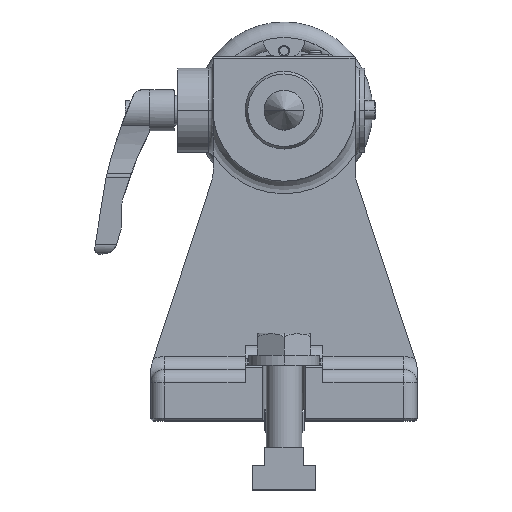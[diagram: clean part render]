
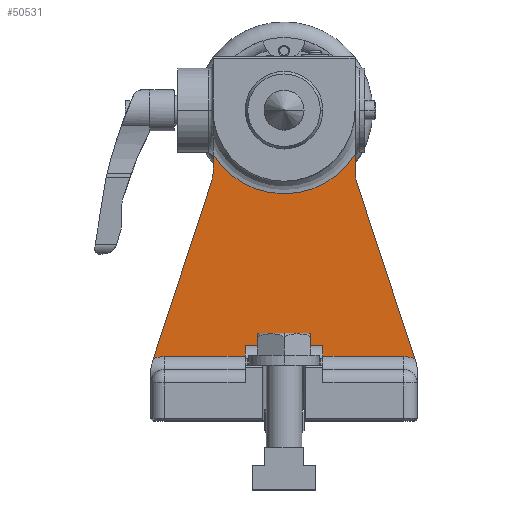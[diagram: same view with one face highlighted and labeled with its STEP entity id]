
A CAD part, top view. The second image highlights one B-rep face of the part: STEP entity #50531.
In plain terms, the highlighted planar face has unit normal (0, 0, 1) as drawn and (-1, 0, 0) by its records, which use the part's own axes.
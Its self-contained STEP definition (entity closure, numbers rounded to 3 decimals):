
#36 = EDGE_CURVE ( 'NONE', #58808, #60209, #1663, .T. ) ;
#89 = AXIS2_PLACEMENT_3D ( 'NONE', #58872, #58540, #33515 ) ;
#552 = CIRCLE ( 'NONE', #64527, 37.657 ) ;
#963 = CIRCLE ( 'NONE', #26580, 12. ) ;
#1131 = DIRECTION ( 'NONE',  ( 1., 0., 0. ) ) ;
#1309 = EDGE_CURVE ( 'NONE', #56302, #11213, #29356, .T. ) ;
#1663 = LINE ( 'NONE', #12346, #32223 ) ;
#1791 = LINE ( 'NONE', #46581, #5841 ) ;
#2420 = CARTESIAN_POINT ( 'NONE',  ( 35., 27.954, -58.9 ) ) ;
#2845 = EDGE_CURVE ( 'NONE', #3354, #11709, #12347, .T. ) ;
#3153 = DIRECTION ( 'NONE',  ( 0., -1., 0. ) ) ;
#3354 = VERTEX_POINT ( 'NONE', #43610 ) ;
#3800 = CARTESIAN_POINT ( 'NONE',  ( 35., 164., 17.5 ) ) ;
#4458 = AXIS2_PLACEMENT_3D ( 'NONE', #21167, #1131, #52922 ) ;
#5345 = CARTESIAN_POINT ( 'NONE',  ( 35., 29., 17.5 ) ) ;
#5841 = VECTOR ( 'NONE', #31546, 1000. ) ;
#6128 = DIRECTION ( 'NONE',  ( 0., 0., -1. ) ) ;
#6258 = EDGE_CURVE ( 'NONE', #28698, #7567, #552, .T. ) ;
#6654 = CARTESIAN_POINT ( 'NONE',  ( 35., 29., 54. ) ) ;
#7026 = DIRECTION ( 'NONE',  ( 0., 0., 1. ) ) ;
#7494 = CARTESIAN_POINT ( 'NONE',  ( 35., 164., -17.5 ) ) ;
#7567 = VERTEX_POINT ( 'NONE', #64510 ) ;
#9446 = CARTESIAN_POINT ( 'NONE',  ( 35., 111.598, -42. ) ) ;
#9559 = ORIENTED_EDGE ( 'NONE', *, *, #36, .T. ) ;
#11213 = VERTEX_POINT ( 'NONE', #50535 ) ;
#11698 = ORIENTED_EDGE ( 'NONE', *, *, #42191, .F. ) ;
#11709 = VERTEX_POINT ( 'NONE', #52434 ) ;
#12144 = DIRECTION ( 'NONE',  ( 0., 1., 0. ) ) ;
#12346 = CARTESIAN_POINT ( 'NONE',  ( 35., 29., -60. ) ) ;
#12347 = LINE ( 'NONE', #63422, #32685 ) ;
#13205 = DIRECTION ( 'NONE',  ( 0., 0., 1. ) ) ;
#13490 = CARTESIAN_POINT ( 'NONE',  ( 35., 34., -17.5 ) ) ;
#14120 = FACE_OUTER_BOUND ( 'NONE', #54470, .T. ) ;
#14448 = VERTEX_POINT ( 'NONE', #6654 ) ;
#15047 = AXIS2_PLACEMENT_3D ( 'NONE', #9446, #50218, #30485 ) ;
#15969 = VERTEX_POINT ( 'NONE', #48021 ) ;
#16765 = CARTESIAN_POINT ( 'NONE',  ( 35., 150.469, -18.731 ) ) ;
#16888 = CARTESIAN_POINT ( 'NONE',  ( 35., 120.15, 32. ) ) ;
#17746 = DIRECTION ( 'NONE',  ( 0., 0., -1. ) ) ;
#18202 = ORIENTED_EDGE ( 'NONE', *, *, #50389, .T. ) ;
#19988 = EDGE_CURVE ( 'NONE', #14448, #11709, #28924, .T. ) ;
#20244 = CARTESIAN_POINT ( 'NONE',  ( 35., 29., -54. ) ) ;
#21167 = CARTESIAN_POINT ( 'NONE',  ( 35., 111.598, 42. ) ) ;
#21569 = DIRECTION ( 'NONE',  ( 0., -1., 0. ) ) ;
#22697 = DIRECTION ( 'NONE',  ( 0., -0.95, 0.312 ) ) ;
#23662 = CARTESIAN_POINT ( 'NONE',  ( 35., 34., -17.5 ) ) ;
#23922 = VERTEX_POINT ( 'NONE', #2420 ) ;
#23940 = CARTESIAN_POINT ( 'NONE',  ( 35., 29., -17.5 ) ) ;
#24642 = CARTESIAN_POINT ( 'NONE',  ( 35., 111.598, -32. ) ) ;
#24858 = ORIENTED_EDGE ( 'NONE', *, *, #41731, .F. ) ;
#26156 = EDGE_CURVE ( 'NONE', #11213, #45072, #33545, .T. ) ;
#26580 = AXIS2_PLACEMENT_3D ( 'NONE', #32455, #37796, #17746 ) ;
#28698 = VERTEX_POINT ( 'NONE', #16888 ) ;
#28863 = DIRECTION ( 'NONE',  ( 1., 0., 0. ) ) ;
#28924 = CIRCLE ( 'NONE', #89, 12. ) ;
#28930 = CARTESIAN_POINT ( 'NONE',  ( 35., 29., -60. ) ) ;
#29356 = LINE ( 'NONE', #23662, #49260 ) ;
#29550 = ORIENTED_EDGE ( 'NONE', *, *, #2845, .F. ) ;
#29593 = ORIENTED_EDGE ( 'NONE', *, *, #50732, .T. ) ;
#30485 = DIRECTION ( 'NONE',  ( 0., 0., -1. ) ) ;
#31427 = CARTESIAN_POINT ( 'NONE',  ( 35., 108.482, -32.498 ) ) ;
#31546 = DIRECTION ( 'NONE',  ( 0., 1., 0. ) ) ;
#32223 = VECTOR ( 'NONE', #7026, 1000. ) ;
#32455 = CARTESIAN_POINT ( 'NONE',  ( 35., 17., -54. ) ) ;
#32685 = VECTOR ( 'NONE', #22697, 1000. ) ;
#33515 = DIRECTION ( 'NONE',  ( 0., 0., -1. ) ) ;
#33545 = LINE ( 'NONE', #3800, #50248 ) ;
#33766 = ORIENTED_EDGE ( 'NONE', *, *, #46415, .F. ) ;
#33938 = LINE ( 'NONE', #28930, #59038 ) ;
#34155 = VERTEX_POINT ( 'NONE', #24642 ) ;
#35874 = ORIENTED_EDGE ( 'NONE', *, *, #26156, .T. ) ;
#36210 = ORIENTED_EDGE ( 'NONE', *, *, #48637, .T. ) ;
#36405 = VERTEX_POINT ( 'NONE', #31427 ) ;
#36734 = VECTOR ( 'NONE', #21569, 1000. ) ;
#36845 = CARTESIAN_POINT ( 'NONE',  ( 35., 140., 0. ) ) ;
#37453 = VECTOR ( 'NONE', #12144, 1000. ) ;
#37796 = DIRECTION ( 'NONE',  ( 1., 0., 0. ) ) ;
#38548 = ORIENTED_EDGE ( 'NONE', *, *, #55142, .T. ) ;
#39044 = DIRECTION ( 'NONE',  ( 0., 0., 1. ) ) ;
#39358 = EDGE_CURVE ( 'NONE', #45072, #14448, #33938, .T. ) ;
#40348 = ORIENTED_EDGE ( 'NONE', *, *, #6258, .T. ) ;
#41322 = LINE ( 'NONE', #7494, #37453 ) ;
#41731 = EDGE_CURVE ( 'NONE', #28698, #15969, #52331, .T. ) ;
#42191 = EDGE_CURVE ( 'NONE', #34155, #7567, #1791, .T. ) ;
#42990 = ORIENTED_EDGE ( 'NONE', *, *, #19988, .T. ) ;
#43610 = CARTESIAN_POINT ( 'NONE',  ( 35., 108.482, 32.498 ) ) ;
#43890 = DIRECTION ( 'NONE',  ( 0., 0., -1. ) ) ;
#45072 = VERTEX_POINT ( 'NONE', #5345 ) ;
#46257 = ORIENTED_EDGE ( 'NONE', *, *, #39358, .T. ) ;
#46415 = EDGE_CURVE ( 'NONE', #23922, #36405, #53510, .T. ) ;
#46581 = CARTESIAN_POINT ( 'NONE',  ( 35., 164., -32. ) ) ;
#48021 = CARTESIAN_POINT ( 'NONE',  ( 35., 111.598, 32. ) ) ;
#48098 = AXIS2_PLACEMENT_3D ( 'NONE', #54874, #28863, #43890 ) ;
#48578 = PLANE ( 'NONE',  #48098 ) ;
#48637 = EDGE_CURVE ( 'NONE', #23922, #58808, #963, .T. ) ;
#49260 = VECTOR ( 'NONE', #39044, 1000. ) ;
#50218 = DIRECTION ( 'NONE',  ( 1., 0., 0. ) ) ;
#50248 = VECTOR ( 'NONE', #3153, 1000. ) ;
#50389 = EDGE_CURVE ( 'NONE', #60209, #56302, #41322, .T. ) ;
#50531 = ADVANCED_FACE ( 'NONE', ( #14120 ), #48578, .F. ) ;
#50535 = CARTESIAN_POINT ( 'NONE',  ( 35., 34., 17.5 ) ) ;
#50732 = EDGE_CURVE ( 'NONE', #34155, #36405, #57725, .T. ) ;
#52331 = LINE ( 'NONE', #56655, #36734 ) ;
#52434 = CARTESIAN_POINT ( 'NONE',  ( 35., 27.954, 58.9 ) ) ;
#52922 = DIRECTION ( 'NONE',  ( 0., 0., -1. ) ) ;
#53475 = ORIENTED_EDGE ( 'NONE', *, *, #1309, .T. ) ;
#53510 = LINE ( 'NONE', #16765, #65988 ) ;
#54470 = EDGE_LOOP ( 'NONE', ( #24858, #40348, #11698, #29593, #33766, #36210, #9559, #18202, #53475, #35874, #46257, #42990, #29550, #38548 ) ) ;
#54874 = CARTESIAN_POINT ( 'NONE',  ( 35., 164., -60. ) ) ;
#55142 = EDGE_CURVE ( 'NONE', #3354, #15969, #61861, .T. ) ;
#56302 = VERTEX_POINT ( 'NONE', #13490 ) ;
#56655 = CARTESIAN_POINT ( 'NONE',  ( 35., 164., 32. ) ) ;
#57513 = DIRECTION ( 'NONE',  ( 0., 0.95, 0.312 ) ) ;
#57725 = CIRCLE ( 'NONE', #15047, 10. ) ;
#57855 = DIRECTION ( 'NONE',  ( 1., 0., 0. ) ) ;
#58540 = DIRECTION ( 'NONE',  ( 1., 0., 0. ) ) ;
#58808 = VERTEX_POINT ( 'NONE', #20244 ) ;
#58872 = CARTESIAN_POINT ( 'NONE',  ( 35., 17., 54. ) ) ;
#59038 = VECTOR ( 'NONE', #13205, 1000. ) ;
#60209 = VERTEX_POINT ( 'NONE', #23940 ) ;
#61861 = CIRCLE ( 'NONE', #4458, 10. ) ;
#63422 = CARTESIAN_POINT ( 'NONE',  ( 35., 185.995, 7.084 ) ) ;
#64510 = CARTESIAN_POINT ( 'NONE',  ( 35., 120.15, -32. ) ) ;
#64527 = AXIS2_PLACEMENT_3D ( 'NONE', #36845, #57855, #6128 ) ;
#65988 = VECTOR ( 'NONE', #57513, 1000. ) ;
